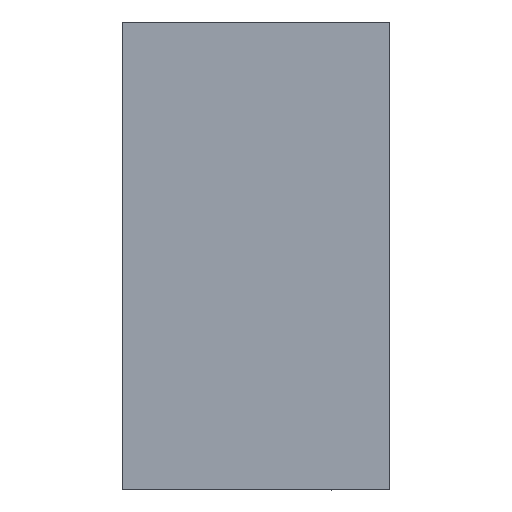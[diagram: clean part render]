
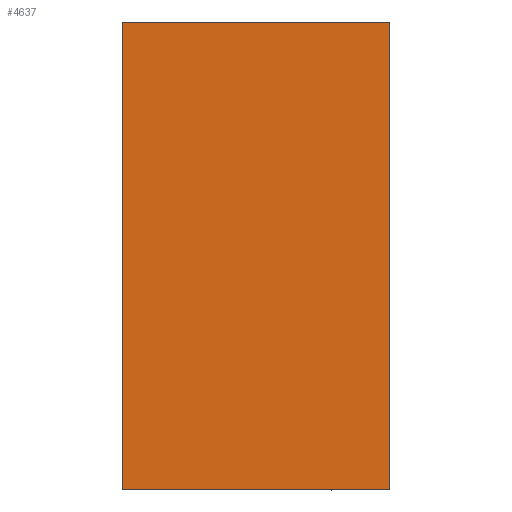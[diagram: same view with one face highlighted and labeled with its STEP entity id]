
A CAD part, left-side view. The second image highlights one B-rep face of the part: STEP entity #4637.
In plain terms, the highlighted planar face has unit normal (-1, 0, 0).
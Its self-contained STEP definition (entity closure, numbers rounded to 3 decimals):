
#157 = DIRECTION ( 'NONE',  ( 1., 0., 0. ) ) ;
#453 = CARTESIAN_POINT ( 'NONE',  ( -220., -60., -105. ) ) ;
#835 = CARTESIAN_POINT ( 'NONE',  ( -220., 60., -105. ) ) ;
#1333 = VERTEX_POINT ( 'NONE', #2575 ) ;
#1476 = CARTESIAN_POINT ( 'NONE',  ( -220., 60., 105. ) ) ;
#1531 = VECTOR ( 'NONE', #4994, 1000. ) ;
#1657 = DIRECTION ( 'NONE',  ( 0., 0., -1. ) ) ;
#2575 = CARTESIAN_POINT ( 'NONE',  ( -220., 60., -105. ) ) ;
#2685 = LINE ( 'NONE', #9939, #5026 ) ;
#2865 = ORIENTED_EDGE ( 'NONE', *, *, #11281, .T. ) ;
#3150 = DIRECTION ( 'NONE',  ( 0., -1., 0. ) ) ;
#4492 = EDGE_CURVE ( 'NONE', #1333, #7294, #8373, .T. ) ;
#4637 = ADVANCED_FACE ( 'NONE', ( #8665 ), #10420, .F. ) ;
#4994 = DIRECTION ( 'NONE',  ( 0., 0., -1. ) ) ;
#5026 = VECTOR ( 'NONE', #1657, 1000. ) ;
#5772 = DIRECTION ( 'NONE',  ( 0., 0., -1. ) ) ;
#5903 = VERTEX_POINT ( 'NONE', #10474 ) ;
#6008 = VECTOR ( 'NONE', #3150, 1000. ) ;
#7294 = VERTEX_POINT ( 'NONE', #453 ) ;
#7512 = VECTOR ( 'NONE', #9044, 1000. ) ;
#7546 = ORIENTED_EDGE ( 'NONE', *, *, #7611, .F. ) ;
#7611 = EDGE_CURVE ( 'NONE', #11352, #5903, #9554, .T. ) ;
#8373 = LINE ( 'NONE', #835, #7512 ) ;
#8428 = CARTESIAN_POINT ( 'NONE',  ( -220., 60., 105. ) ) ;
#8665 = FACE_OUTER_BOUND ( 'NONE', #10487, .T. ) ;
#9044 = DIRECTION ( 'NONE',  ( 0., -1., 0. ) ) ;
#9444 = AXIS2_PLACEMENT_3D ( 'NONE', #8428, #157, #5772 ) ;
#9554 = LINE ( 'NONE', #11419, #6008 ) ;
#9756 = ORIENTED_EDGE ( 'NONE', *, *, #10593, .F. ) ;
#9939 = CARTESIAN_POINT ( 'NONE',  ( -220., -60., 105. ) ) ;
#10420 = PLANE ( 'NONE',  #9444 ) ;
#10474 = CARTESIAN_POINT ( 'NONE',  ( -220., -60., 105. ) ) ;
#10487 = EDGE_LOOP ( 'NONE', ( #11530, #9756, #7546, #2865 ) ) ;
#10593 = EDGE_CURVE ( 'NONE', #5903, #7294, #2685, .T. ) ;
#10717 = CARTESIAN_POINT ( 'NONE',  ( -220., 60., 105. ) ) ;
#11281 = EDGE_CURVE ( 'NONE', #11352, #1333, #11559, .T. ) ;
#11352 = VERTEX_POINT ( 'NONE', #10717 ) ;
#11419 = CARTESIAN_POINT ( 'NONE',  ( -220., 60., 105. ) ) ;
#11530 = ORIENTED_EDGE ( 'NONE', *, *, #4492, .T. ) ;
#11559 = LINE ( 'NONE', #1476, #1531 ) ;
